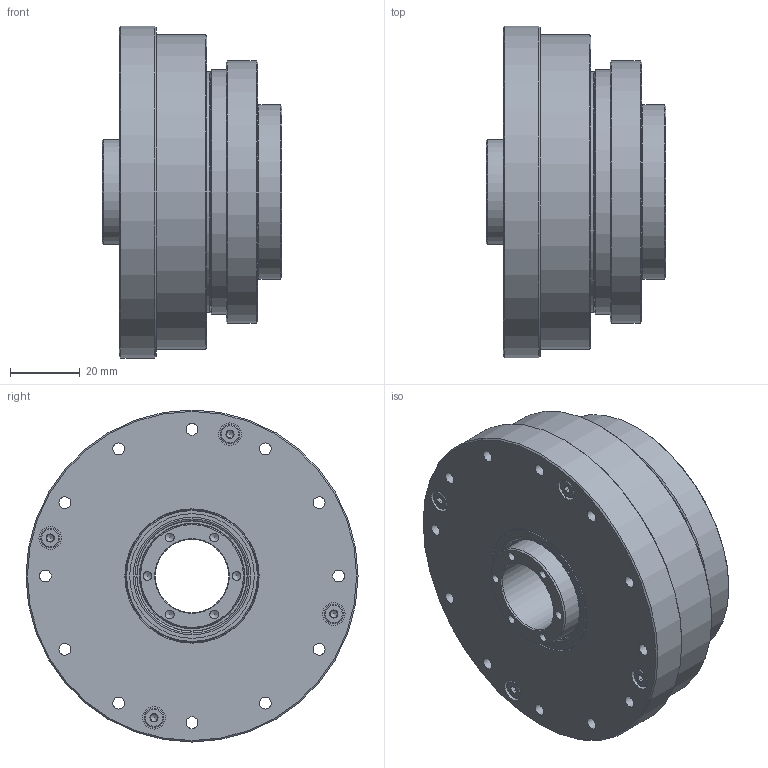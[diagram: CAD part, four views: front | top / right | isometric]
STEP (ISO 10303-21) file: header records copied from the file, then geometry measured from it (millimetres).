
FILE_DESCRIPTION(/* description */ (''),/* implementation_level */ '2;1');
FILE_NAME(/* name */ '40006722oer000_00.stp',/* time_stamp */ '2024-08-27T17:39:48+02:00',/* author */ (''),/* organization */ (''),/* preprocessor_version */ 'ST-DEVELOPER v19.4',/* originating_system */ 'SIEMENS PLM Software NX2212.9120',/* authorisation */ '');
FILE_SCHEMA (('AUTOMOTIVE_DESIGN { 1 0 10303 214 3 1 1 1 }'));
Length unit declared in the file: millimetre
Products named in the file (1): 40006722oer000_00_objects
Bounding box: 51.5 x 95 x 95 mm (x, y, z)
Volume: 181279.2 mm3; surface area: 160500.1 mm2
Topology: 134 solids, 137 shells, 1209 faces, 2794 edges, 1825 vertices
Faces by surface type: plane 390, cylinder 383, torus 190, cone 184, sphere 59, bspline 3
Full cylindrical faces by diameter (mm): 1.25 x1, 1.6 x1, 1.8 x1, 2 x2, 2.5 x34, 3 x9, 3.2 x1, 3.4 x56, 3.5 x28, 4.2 x24, 5.2 x44, 5.5 x8, 6.5 x8, 21 x1, 28.6 x1, 28.88 x1, 30 x6, 31.648 x2, 32 x4, 33 x3, 33.602 x4, 34 x5, 34.615 x2, 35 x1, 35.655 x4, 36.2 x2, 36.8 x4, 37.485 x2, 37.6 x4, 38 x4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
Entity records: 35946 total; most frequent: CARTESIAN_POINT 11461, DIRECTION 4995, ORIENTED_EDGE 3474, AXIS2_PLACEMENT_3D 2353, EDGE_LOOP 2091, FACE_BOUND 1767, EDGE_CURVE 1737, VERTEX_POINT 1515
